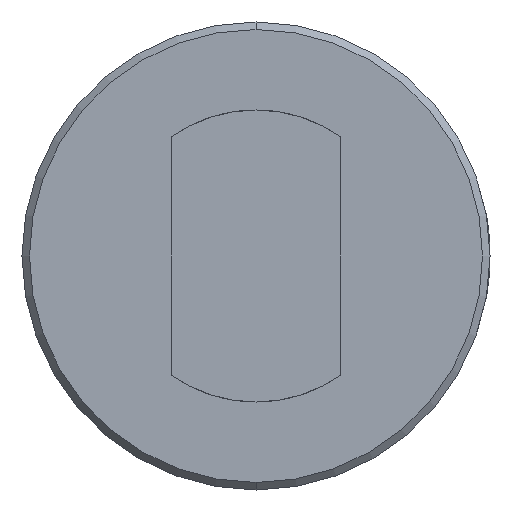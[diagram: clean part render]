
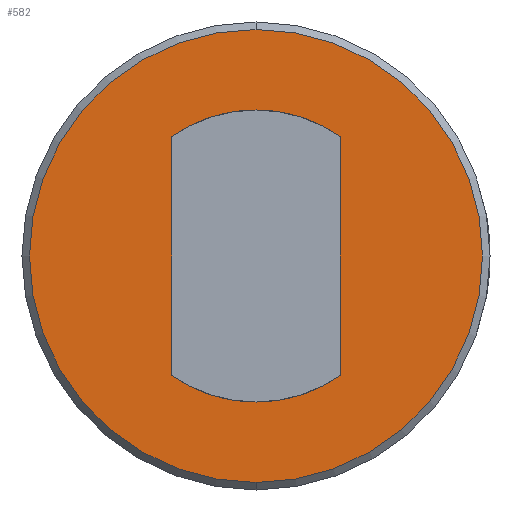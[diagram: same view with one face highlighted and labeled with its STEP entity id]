
A CAD part, front view. The second image highlights one B-rep face of the part: STEP entity #582.
In plain terms, the highlighted planar face has unit normal (0, -1, 0).
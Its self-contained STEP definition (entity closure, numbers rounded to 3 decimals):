
#7 = CARTESIAN_POINT ( 'NONE',  ( -13.7, 0., -17.848 ) ) ;
#11 = CARTESIAN_POINT ( 'NONE',  ( 0., 0., 22.5 ) ) ;
#53 = FACE_BOUND ( 'NONE', #981, .T. ) ;
#54 = ORIENTED_EDGE ( 'NONE', *, *, #219, .F. ) ;
#65 = DIRECTION ( 'NONE',  ( 0., -1., 0. ) ) ;
#66 = VERTEX_POINT ( 'NONE', #1112 ) ;
#79 = DIRECTION ( 'NONE',  ( 0., 0., 1. ) ) ;
#92 = AXIS2_PLACEMENT_3D ( 'NONE', #811, #716, #638 ) ;
#109 = CARTESIAN_POINT ( 'NONE',  ( 0., 0., 0. ) ) ;
#125 = ORIENTED_EDGE ( 'NONE', *, *, #457, .T. ) ;
#159 = EDGE_CURVE ( 'NONE', #495, #1147, #405, .T. ) ;
#161 = VECTOR ( 'NONE', #79, 1000. ) ;
#198 = DIRECTION ( 'NONE',  ( 0., 0., 1. ) ) ;
#200 = CARTESIAN_POINT ( 'NONE',  ( -13.7, 0., -62.5 ) ) ;
#202 = VERTEX_POINT ( 'NONE', #1063 ) ;
#204 = DIRECTION ( 'NONE',  ( 0., 0., 1. ) ) ;
#219 = EDGE_CURVE ( 'NONE', #1147, #755, #817, .T. ) ;
#268 = EDGE_CURVE ( 'NONE', #66, #546, #555, .T. ) ;
#376 = CIRCLE ( 'NONE', #1152, 22.5 ) ;
#405 = LINE ( 'NONE', #448, #161 ) ;
#448 = CARTESIAN_POINT ( 'NONE',  ( 13.7, 0., -62.5 ) ) ;
#457 = EDGE_CURVE ( 'NONE', #546, #66, #800, .T. ) ;
#466 = CARTESIAN_POINT ( 'NONE',  ( 0., 0., 0. ) ) ;
#475 = DIRECTION ( 'NONE',  ( 0., 0., 1. ) ) ;
#495 = VERTEX_POINT ( 'NONE', #1082 ) ;
#505 = EDGE_LOOP ( 'NONE', ( #125, #529 ) ) ;
#507 = FACE_OUTER_BOUND ( 'NONE', #505, .T. ) ;
#522 = EDGE_CURVE ( 'NONE', #1030, #495, #769, .T. ) ;
#526 = AXIS2_PLACEMENT_3D ( 'NONE', #619, #65, #696 ) ;
#529 = ORIENTED_EDGE ( 'NONE', *, *, #268, .T. ) ;
#546 = VERTEX_POINT ( 'NONE', #648 ) ;
#555 = CIRCLE ( 'NONE', #92, 60.5 ) ;
#565 = DIRECTION ( 'NONE',  ( 0., 0., 1. ) ) ;
#578 = CARTESIAN_POINT ( 'NONE',  ( 13.7, 0., 17.848 ) ) ;
#582 = ADVANCED_FACE ( 'NONE', ( #507, #53 ), #661, .F. ) ;
#589 = ORIENTED_EDGE ( 'NONE', *, *, #761, .T. ) ;
#619 = CARTESIAN_POINT ( 'NONE',  ( 0., 0., 0. ) ) ;
#624 = CARTESIAN_POINT ( 'NONE',  ( 0., 0., 0. ) ) ;
#626 = DIRECTION ( 'NONE',  ( 0., 0., 1. ) ) ;
#631 = DIRECTION ( 'NONE',  ( 0., -1., 0. ) ) ;
#638 = DIRECTION ( 'NONE',  ( 0., 0., 1. ) ) ;
#647 = AXIS2_PLACEMENT_3D ( 'NONE', #466, #1088, #565 ) ;
#648 = CARTESIAN_POINT ( 'NONE',  ( 0., 0., 60.5 ) ) ;
#661 = PLANE ( 'NONE',  #1062 ) ;
#696 = DIRECTION ( 'NONE',  ( 0., 0., 1. ) ) ;
#716 = DIRECTION ( 'NONE',  ( 0., -1., 0. ) ) ;
#732 = DIRECTION ( 'NONE',  ( 0., -1., 0. ) ) ;
#740 = DIRECTION ( 'NONE',  ( 0., 1., 0. ) ) ;
#755 = VERTEX_POINT ( 'NONE', #11 ) ;
#761 = EDGE_CURVE ( 'NONE', #1030, #202, #1055, .T. ) ;
#769 = CIRCLE ( 'NONE', #647, 22.5 ) ;
#800 = CIRCLE ( 'NONE', #526, 60.5 ) ;
#811 = CARTESIAN_POINT ( 'NONE',  ( 0., 0., 0. ) ) ;
#817 = CIRCLE ( 'NONE', #945, 22.5 ) ;
#893 = ORIENTED_EDGE ( 'NONE', *, *, #522, .F. ) ;
#945 = AXIS2_PLACEMENT_3D ( 'NONE', #624, #631, #626 ) ;
#981 = EDGE_LOOP ( 'NONE', ( #984, #893, #589, #997, #54 ) ) ;
#984 = ORIENTED_EDGE ( 'NONE', *, *, #159, .F. ) ;
#997 = ORIENTED_EDGE ( 'NONE', *, *, #1023, .F. ) ;
#1000 = CARTESIAN_POINT ( 'NONE',  ( 0., 0., 0. ) ) ;
#1023 = EDGE_CURVE ( 'NONE', #755, #202, #376, .T. ) ;
#1029 = VECTOR ( 'NONE', #475, 1000. ) ;
#1030 = VERTEX_POINT ( 'NONE', #7 ) ;
#1055 = LINE ( 'NONE', #200, #1029 ) ;
#1062 = AXIS2_PLACEMENT_3D ( 'NONE', #1000, #740, #204 ) ;
#1063 = CARTESIAN_POINT ( 'NONE',  ( -13.7, 0., 17.848 ) ) ;
#1082 = CARTESIAN_POINT ( 'NONE',  ( 13.7, 0., -17.848 ) ) ;
#1088 = DIRECTION ( 'NONE',  ( 0., -1., 0. ) ) ;
#1112 = CARTESIAN_POINT ( 'NONE',  ( 0., 0., -60.5 ) ) ;
#1147 = VERTEX_POINT ( 'NONE', #578 ) ;
#1152 = AXIS2_PLACEMENT_3D ( 'NONE', #109, #732, #198 ) ;
